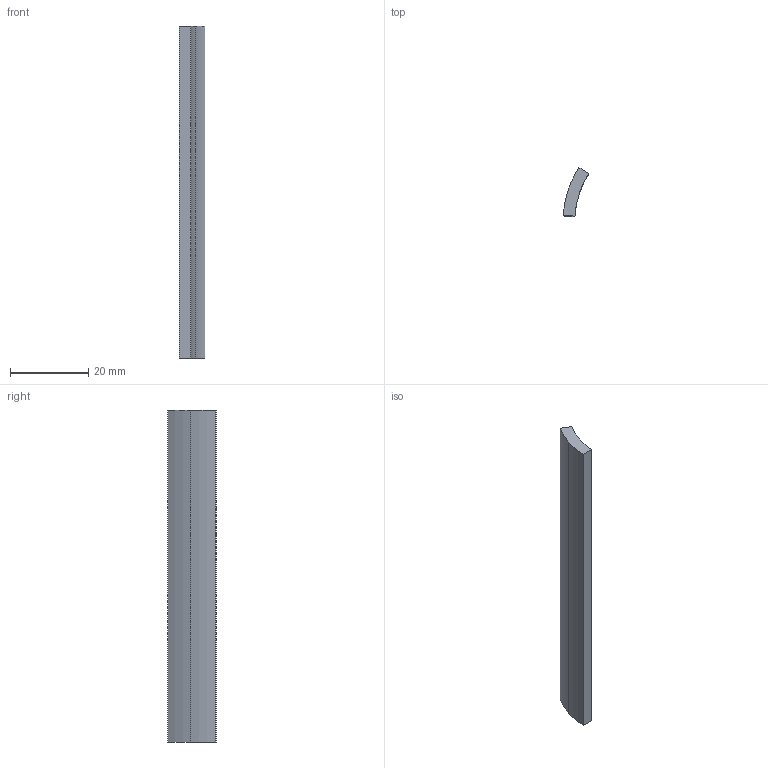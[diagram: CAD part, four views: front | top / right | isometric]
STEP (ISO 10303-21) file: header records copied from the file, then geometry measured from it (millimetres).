
FILE_DESCRIPTION(('FreeCAD Model'),'2;1');
FILE_NAME('Open CASCADE Shape Model','2026-11-05T18:53:51',('FreeCAD'),( 'FreeCAD'),'Open CASCADE STEP processor 7.8','FreeCAD','Unknown');
FILE_SCHEMA(('AUTOMOTIVE_DESIGN { 1 0 10303 214 1 1 1 1 }'));
Length unit declared in the file: millimetre
Products named in the file (1): Open CASCADE STEP translator 7.8 6
Bounding box: 6.53 x 12.49 x 85 mm (x, y, z)
Volume: 3140.3 mm3; surface area: 2677.4 mm2
Topology: 1 solids, 1 shells, 8 faces, 18 edges, 12 vertices
Faces by surface type: plane 4, cylinder 4
Entity records: 240 total; most frequent: DIRECTION 44, CARTESIAN_POINT 39, ORIENTED_EDGE 36, EDGE_CURVE 18, AXIS2_PLACEMENT_3D 17, VERTEX_POINT 12, LINE 10, VECTOR 10
